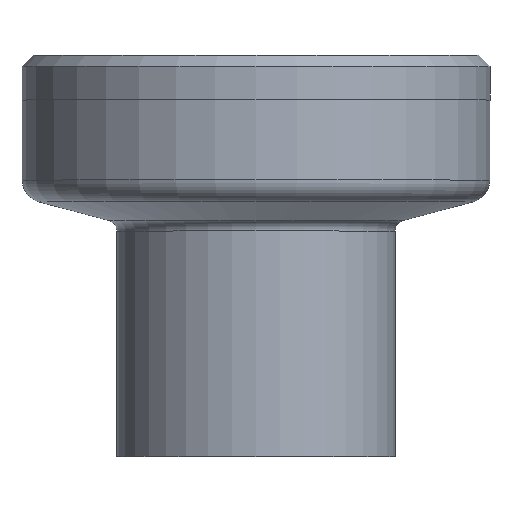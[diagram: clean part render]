
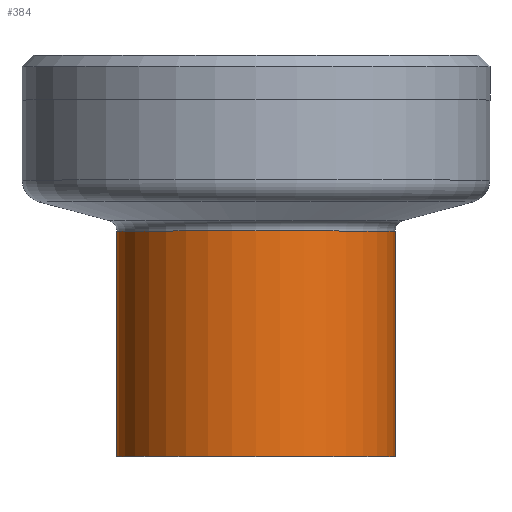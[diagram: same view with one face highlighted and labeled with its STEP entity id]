
A CAD part, top view. The second image highlights one B-rep face of the part: STEP entity #384.
In plain terms, the highlighted cylindrical face has radius 6.25 mm (diameter 12.5 mm), a partial arc.
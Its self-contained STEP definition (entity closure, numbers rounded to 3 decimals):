
#10 = AXIS2_PLACEMENT_3D ( 'NONE', #56, #108, #690 ) ;
#33 = FACE_OUTER_BOUND ( 'NONE', #580, .T. ) ;
#38 = CARTESIAN_POINT ( 'NONE',  ( 0., 0., 0. ) ) ;
#52 = CARTESIAN_POINT ( 'NONE',  ( 6.25, 10.116, 0. ) ) ;
#54 = DIRECTION ( 'NONE',  ( 0., -1., 0. ) ) ;
#56 = CARTESIAN_POINT ( 'NONE',  ( 0., 10.116, 0. ) ) ;
#84 = ORIENTED_EDGE ( 'NONE', *, *, #314, .T. ) ;
#96 = CARTESIAN_POINT ( 'NONE',  ( 6.25, 0., 0. ) ) ;
#108 = DIRECTION ( 'NONE',  ( 0., -1., 0. ) ) ;
#130 = CARTESIAN_POINT ( 'NONE',  ( -6.25, 10.116, 0. ) ) ;
#207 = CYLINDRICAL_SURFACE ( 'NONE', #787, 6.25 ) ;
#252 = CARTESIAN_POINT ( 'NONE',  ( -6.25, 0., 0. ) ) ;
#264 = DIRECTION ( 'NONE',  ( 0., -1., 0. ) ) ;
#287 = DIRECTION ( 'NONE',  ( 0., -1., 0. ) ) ;
#300 = ORIENTED_EDGE ( 'NONE', *, *, #369, .T. ) ;
#314 = EDGE_CURVE ( 'NONE', #344, #846, #413, .T. ) ;
#344 = VERTEX_POINT ( 'NONE', #52 ) ;
#363 = VECTOR ( 'NONE', #287, 1000. ) ;
#369 = EDGE_CURVE ( 'NONE', #846, #924, #620, .T. ) ;
#381 = ORIENTED_EDGE ( 'NONE', *, *, #656, .F. ) ;
#383 = CIRCLE ( 'NONE', #791, 6.25 ) ;
#384 = ADVANCED_FACE ( 'NONE', ( #33 ), #207, .T. ) ;
#413 = CIRCLE ( 'NONE', #10, 6.25 ) ;
#507 = CARTESIAN_POINT ( 'NONE',  ( 6.25, 0., 0. ) ) ;
#547 = CARTESIAN_POINT ( 'NONE',  ( -6.25, 0., 0. ) ) ;
#580 = EDGE_LOOP ( 'NONE', ( #84, #300, #903, #381 ) ) ;
#584 = DIRECTION ( 'NONE',  ( 1., 0., 0. ) ) ;
#620 = LINE ( 'NONE', #547, #709 ) ;
#625 = DIRECTION ( 'NONE',  ( 0., -1., 0. ) ) ;
#656 = EDGE_CURVE ( 'NONE', #344, #673, #664, .T. ) ;
#664 = LINE ( 'NONE', #96, #363 ) ;
#673 = VERTEX_POINT ( 'NONE', #507 ) ;
#690 = DIRECTION ( 'NONE',  ( 1., 0., 0. ) ) ;
#702 = CARTESIAN_POINT ( 'NONE',  ( 0., 0., 0. ) ) ;
#709 = VECTOR ( 'NONE', #264, 1000. ) ;
#787 = AXIS2_PLACEMENT_3D ( 'NONE', #38, #625, #851 ) ;
#791 = AXIS2_PLACEMENT_3D ( 'NONE', #702, #54, #584 ) ;
#846 = VERTEX_POINT ( 'NONE', #130 ) ;
#847 = EDGE_CURVE ( 'NONE', #673, #924, #383, .T. ) ;
#851 = DIRECTION ( 'NONE',  ( 1., 0., 0. ) ) ;
#903 = ORIENTED_EDGE ( 'NONE', *, *, #847, .F. ) ;
#924 = VERTEX_POINT ( 'NONE', #252 ) ;
